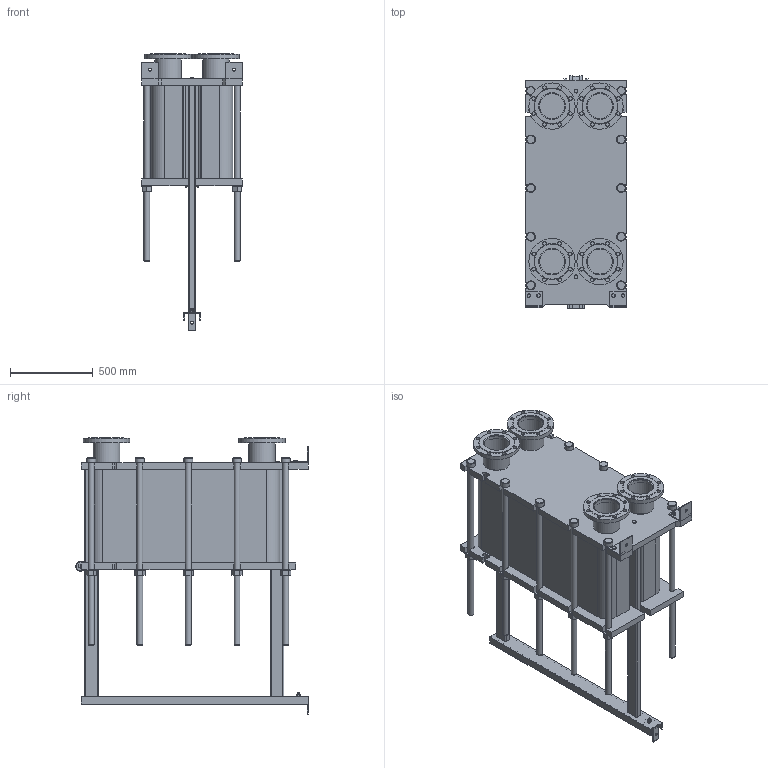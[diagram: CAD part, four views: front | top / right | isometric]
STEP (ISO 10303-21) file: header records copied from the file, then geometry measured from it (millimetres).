
FILE_DESCRIPTION(/* description */ (''),/* implementation_level */ '2;1');
FILE_NAME(/* name */ 'C:\Users\zhuro\Desktop\ENCO\TO\ЭН-041\ЭН-0,5-041-164-1.stp',/* time_stamp */ '2022-06-06T11:04:14+03:00',/* author */ ('zhuro'),/* organization */ (''),/* preprocessor_version */ 'ST-DEVELOPER v18.1',/* originating_system */ 'Autodesk Inventor 2022',/* authorisation */ '');
FILE_SCHEMA (('AUTOMOTIVE_DESIGN { 1 0 10303 214 3 1 1 }'));
Length unit declared in the file: millimetre
Products named in the file (1): ЭН-0,5-041-164-1
Bounding box: 610 x 1406.5 x 1670 mm (x, y, z)
Volume: 403197608 mm3; surface area: 10435658.6 mm2
Topology: 52 solids, 52 shells, 711 faces, 1696 edges, 1094 vertices
Faces by surface type: plane 487, cylinder 177, cone 41, torus 6
Full cylindrical faces by diameter (mm): 8 x4, 10 x2, 16 x8, 18 x3, 22 x32, 36 x24, 50 x1, 54 x10, 60 x12, 151 x4, 161 x8, 280 x4
Entity records: 22667 total; most frequent: CARTESIAN_POINT 5230, DIRECTION 3644, ORIENTED_EDGE 3392, EDGE_CURVE 1696, AXIS2_PLACEMENT_3D 1272, LINE 1100, VECTOR 1100, VERTEX_POINT 1094
